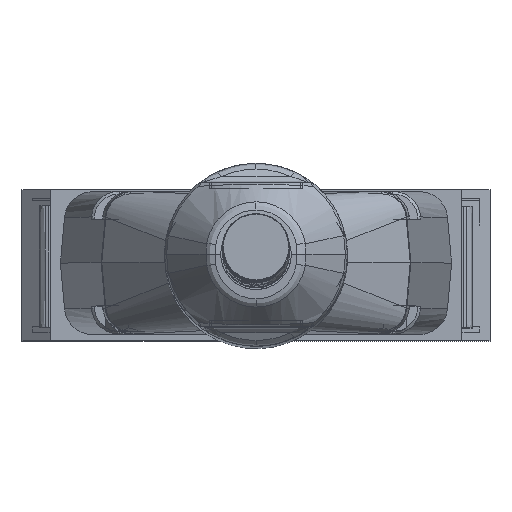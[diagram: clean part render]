
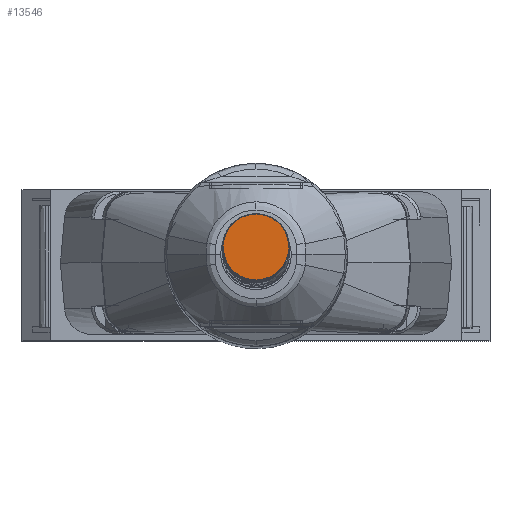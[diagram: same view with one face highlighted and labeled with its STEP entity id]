
A CAD part, top view. The second image highlights one B-rep face of the part: STEP entity #13546.
In plain terms, the highlighted planar face has unit normal (0, 0, 1).
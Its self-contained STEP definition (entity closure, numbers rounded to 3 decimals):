
#52 = CARTESIAN_POINT ( 'NONE',  ( 2.337, 0.31, 420.506 ) ) ;
#304 = B_SPLINE_CURVE_WITH_KNOTS ( 'NONE', 3,
 ( #1950, #16621, #4386, #20828, #18794, #12661, #20959, #24887, #16489, #52, #22849, #26797, #6150, #4122, #10494, #2087, #22582, #6430 ),
 .UNSPECIFIED., .F., .F.,
 ( 4, 2, 2, 2, 2, 2, 2, 2, 4 ),
 ( 0., 0.125, 0.25, 0.375, 0.5, 0.625, 0.75, 0.875, 1. ),
 .UNSPECIFIED. ) ;
#394 = CARTESIAN_POINT ( 'NONE',  ( -2.277, 0.608, 420.506 ) ) ;
#631 = DIRECTION ( 'NONE',  ( 0., 0., 1. ) ) ;
#1950 = CARTESIAN_POINT ( 'NONE',  ( 0., -2.337, 420.506 ) ) ;
#2087 = CARTESIAN_POINT ( 'NONE',  ( 0.608, 2.278, 420.506 ) ) ;
#2561 = CARTESIAN_POINT ( 'NONE',  ( -2.337, 0.31, 420.506 ) ) ;
#2694 = CARTESIAN_POINT ( 'NONE',  ( 0., -2.337, 420.506 ) ) ;
#4122 = CARTESIAN_POINT ( 'NONE',  ( 1.434, 1.871, 420.506 ) ) ;
#4329 = EDGE_LOOP ( 'NONE', ( #16087, #25341 ) ) ;
#4386 = CARTESIAN_POINT ( 'NONE',  ( 0.608, -2.277, 420.506 ) ) ;
#4461 = CARTESIAN_POINT ( 'NONE',  ( -2.04, 1.18, 420.506 ) ) ;
#4734 = CARTESIAN_POINT ( 'NONE',  ( -0.608, -2.278, 420.506 ) ) ;
#6026 = EDGE_CURVE ( 'Defeatured_0_555+Defeatured_0_563+Defeatured_0_562+Defeatured_0_562', #14688, #9235, #19867, .T. ) ;
#6150 = CARTESIAN_POINT ( 'NONE',  ( 1.871, 1.433, 420.506 ) ) ;
#6430 = CARTESIAN_POINT ( 'NONE',  ( 0., 2.337, 420.506 ) ) ;
#6766 = CARTESIAN_POINT ( 'NONE',  ( -1.18, -2.04, 420.506 ) ) ;
#8534 = CARTESIAN_POINT ( 'NONE',  ( -0.608, 2.277, 420.506 ) ) ;
#8940 = CARTESIAN_POINT ( 'NONE',  ( -1.871, -1.433, 420.506 ) ) ;
#9235 = VERTEX_POINT ( 'NONE', #13086 ) ;
#10494 = CARTESIAN_POINT ( 'NONE',  ( 1.18, 2.04, 420.506 ) ) ;
#10705 = CARTESIAN_POINT ( 'NONE',  ( -0.31, 2.337, 420.506 ) ) ;
#10836 = CARTESIAN_POINT ( 'NONE',  ( 0., 2.337, 420.506 ) ) ;
#12435 = CARTESIAN_POINT ( 'NONE',  ( -2.365, -2.365, 420.506 ) ) ;
#12661 = CARTESIAN_POINT ( 'NONE',  ( 1.871, -1.434, 420.506 ) ) ;
#12735 = CARTESIAN_POINT ( 'NONE',  ( -1.18, 2.041, 420.506 ) ) ;
#12800 = EDGE_CURVE ( 'Defeatured_0_555+Defeatured_0_562+Defeatured_0_563+Defeatured_0_563', #9235, #14688, #304, .T. ) ;
#13009 = CARTESIAN_POINT ( 'NONE',  ( -0.31, -2.337, 420.506 ) ) ;
#13086 = CARTESIAN_POINT ( 'NONE',  ( 0., -2.337, 420.506 ) ) ;
#13546 = ADVANCED_FACE ( 'Defeatured_0_555', ( #14487 ), #22752, .T. ) ;
#13666 = AXIS2_PLACEMENT_3D ( 'NONE', #12435, #631, #15019 ) ;
#14487 = FACE_OUTER_BOUND ( 'NONE', #4329, .T. ) ;
#14688 = VERTEX_POINT ( 'NONE', #14979 ) ;
#14979 = CARTESIAN_POINT ( 'NONE',  ( 0., 2.337, 420.506 ) ) ;
#15019 = DIRECTION ( 'NONE',  ( 1., 0., 0. ) ) ;
#16087 = ORIENTED_EDGE ( 'NONE', *, *, #12800, .T. ) ;
#16489 = CARTESIAN_POINT ( 'NONE',  ( 2.337, -0.31, 420.506 ) ) ;
#16621 = CARTESIAN_POINT ( 'NONE',  ( 0.31, -2.337, 420.506 ) ) ;
#16830 = CARTESIAN_POINT ( 'NONE',  ( -1.434, -1.871, 420.506 ) ) ;
#17094 = CARTESIAN_POINT ( 'NONE',  ( -2.337, -0.31, 420.506 ) ) ;
#18794 = CARTESIAN_POINT ( 'NONE',  ( 1.433, -1.871, 420.506 ) ) ;
#19867 = B_SPLINE_CURVE_WITH_KNOTS ( 'NONE', 3,
 ( #10836, #10705, #8534, #12735, #26005, #23331, #4461, #394, #2561, #17094, #25370, #21030, #8940, #16830, #6766, #4734, #13009, #2694 ),
 .UNSPECIFIED., .F., .F.,
 ( 4, 2, 2, 2, 2, 2, 2, 2, 4 ),
 ( 0., 0.125, 0.25, 0.375, 0.5, 0.625, 0.75, 0.875, 1. ),
 .UNSPECIFIED. ) ;
#20828 = CARTESIAN_POINT ( 'NONE',  ( 1.18, -2.041, 420.506 ) ) ;
#20959 = CARTESIAN_POINT ( 'NONE',  ( 2.04, -1.18, 420.506 ) ) ;
#21030 = CARTESIAN_POINT ( 'NONE',  ( -2.041, -1.18, 420.506 ) ) ;
#22582 = CARTESIAN_POINT ( 'NONE',  ( 0.31, 2.337, 420.506 ) ) ;
#22752 = PLANE ( 'NONE',  #13666 ) ;
#22849 = CARTESIAN_POINT ( 'NONE',  ( 2.277, 0.608, 420.506 ) ) ;
#23331 = CARTESIAN_POINT ( 'NONE',  ( -1.871, 1.434, 420.506 ) ) ;
#24887 = CARTESIAN_POINT ( 'NONE',  ( 2.277, -0.608, 420.506 ) ) ;
#25341 = ORIENTED_EDGE ( 'NONE', *, *, #6026, .T. ) ;
#25370 = CARTESIAN_POINT ( 'NONE',  ( -2.277, -0.608, 420.506 ) ) ;
#26005 = CARTESIAN_POINT ( 'NONE',  ( -1.433, 1.871, 420.506 ) ) ;
#26797 = CARTESIAN_POINT ( 'NONE',  ( 2.041, 1.18, 420.506 ) ) ;
